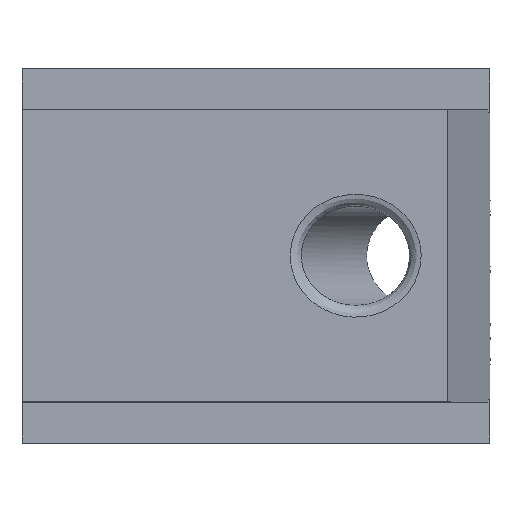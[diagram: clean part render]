
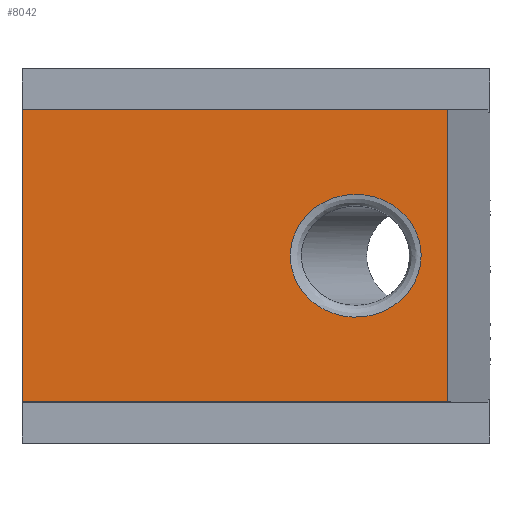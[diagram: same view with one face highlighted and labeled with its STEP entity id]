
A CAD part, top view. The second image highlights one B-rep face of the part: STEP entity #8042.
In plain terms, the highlighted planar face has unit normal (0, 0, 1).
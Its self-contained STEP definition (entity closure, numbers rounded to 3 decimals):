
#213 = DIRECTION ( 'NONE',  ( 0., 0., -1. ) ) ;
#322 = CARTESIAN_POINT ( 'NONE',  ( 34.111, 10.5, 16. ) ) ;
#483 = ORIENTED_EDGE ( 'NONE', *, *, #3608, .F. ) ;
#1032 = FACE_OUTER_BOUND ( 'NONE', #3326, .T. ) ;
#1168 = VERTEX_POINT ( 'NONE', #6078 ) ;
#1724 = CARTESIAN_POINT ( 'NONE',  ( 36.36, -12.5, 16. ) ) ;
#1734 = LINE ( 'NONE', #5042, #10460 ) ;
#1749 = CARTESIAN_POINT ( 'NONE',  ( 34.111, 0., 16. ) ) ;
#2014 = VECTOR ( 'NONE', #3890, 1000. ) ;
#2180 = ORIENTED_EDGE ( 'NONE', *, *, #6006, .T. ) ;
#2792 = EDGE_CURVE ( 'NONE', #3584, #8018, #6989, .T. ) ;
#3326 = EDGE_LOOP ( 'NONE', ( #2180, #3701, #483, #8045 ) ) ;
#3470 = CARTESIAN_POINT ( 'NONE',  ( 0., 12.5, 16. ) ) ;
#3480 = CARTESIAN_POINT ( 'NONE',  ( 0., -12.5, 16. ) ) ;
#3584 = VERTEX_POINT ( 'NONE', #3470 ) ;
#3608 = EDGE_CURVE ( 'NONE', #3584, #1168, #1734, .T. ) ;
#3701 = ORIENTED_EDGE ( 'NONE', *, *, #8726, .F. ) ;
#3829 = DIRECTION ( 'NONE',  ( 0., -1., 0. ) ) ;
#3890 = DIRECTION ( 'NONE',  ( 0., -1., 0. ) ) ;
#3916 = AXIS2_PLACEMENT_3D ( 'NONE', #5925, #213, #9390 ) ;
#4296 = CARTESIAN_POINT ( 'NONE',  ( 22.937, 10.5, 16. ) ) ;
#4414 = CARTESIAN_POINT ( 'NONE',  ( 34.111, 0., 16. ) ) ;
#4501 = DIRECTION ( 'NONE',  ( 1., 0., 0. ) ) ;
#4762 = EDGE_LOOP ( 'NONE', ( #5459 ) ) ;
#5042 = CARTESIAN_POINT ( 'NONE',  ( 0., 12.5, 16. ) ) ;
#5053 = PLANE ( 'NONE',  #3916 ) ;
#5058 = CARTESIAN_POINT ( 'NONE',  ( 22.937, -10.5, 16. ) ) ;
#5229 = VERTEX_POINT ( 'NONE', #4414 ) ;
#5322 = CARTESIAN_POINT ( 'NONE',  ( 0., -12.5, 16. ) ) ;
#5406 = LINE ( 'NONE', #6445, #2014 ) ;
#5459 = ORIENTED_EDGE ( 'NONE', *, *, #8363, .T. ) ;
#5925 = CARTESIAN_POINT ( 'NONE',  ( 0., 12.5, 16. ) ) ;
#6006 = EDGE_CURVE ( 'NONE', #8018, #9673, #6137, .T. ) ;
#6078 = CARTESIAN_POINT ( 'NONE',  ( 36.36, 12.5, 16. ) ) ;
#6137 = LINE ( 'NONE', #5322, #7002 ) ;
#6243 =( BOUNDED_CURVE ( )  B_SPLINE_CURVE ( 3, ( #1749, #8434, #5058, #10211, #4296, #322, #9244 ),
 .UNSPECIFIED., .T., .F. ) 
 B_SPLINE_CURVE_WITH_KNOTS ( ( 4, 3, 4 ),
 ( 0., 3.142, 6.283 ),
 .UNSPECIFIED. ) 
 CURVE ( )  GEOMETRIC_REPRESENTATION_ITEM ( )  RATIONAL_B_SPLINE_CURVE ( ( 1., 0.333, 0.333, 1., 0.333, 0.333, 1. ) ) 
 REPRESENTATION_ITEM ( '' )  );
#6445 = CARTESIAN_POINT ( 'NONE',  ( 36.36, 12.5, 16. ) ) ;
#6906 = FACE_BOUND ( 'NONE', #4762, .T. ) ;
#6989 = LINE ( 'NONE', #7154, #9761 ) ;
#7002 = VECTOR ( 'NONE', #4501, 1000. ) ;
#7154 = CARTESIAN_POINT ( 'NONE',  ( 0., 12.5, 16. ) ) ;
#8018 = VERTEX_POINT ( 'NONE', #3480 ) ;
#8042 = ADVANCED_FACE ( 'NONE', ( #6906, #1032 ), #5053, .F. ) ;
#8045 = ORIENTED_EDGE ( 'NONE', *, *, #2792, .T. ) ;
#8361 = DIRECTION ( 'NONE',  ( 1., 0., 0. ) ) ;
#8363 = EDGE_CURVE ( 'NONE', #5229, #5229, #6243, .T. ) ;
#8434 = CARTESIAN_POINT ( 'NONE',  ( 34.111, -10.5, 16. ) ) ;
#8726 = EDGE_CURVE ( 'NONE', #1168, #9673, #5406, .T. ) ;
#9244 = CARTESIAN_POINT ( 'NONE',  ( 34.111, 0., 16. ) ) ;
#9390 = DIRECTION ( 'NONE',  ( -1., 0., 0. ) ) ;
#9673 = VERTEX_POINT ( 'NONE', #1724 ) ;
#9761 = VECTOR ( 'NONE', #3829, 1000. ) ;
#10211 = CARTESIAN_POINT ( 'NONE',  ( 22.937, 0., 16. ) ) ;
#10460 = VECTOR ( 'NONE', #8361, 1000. ) ;
